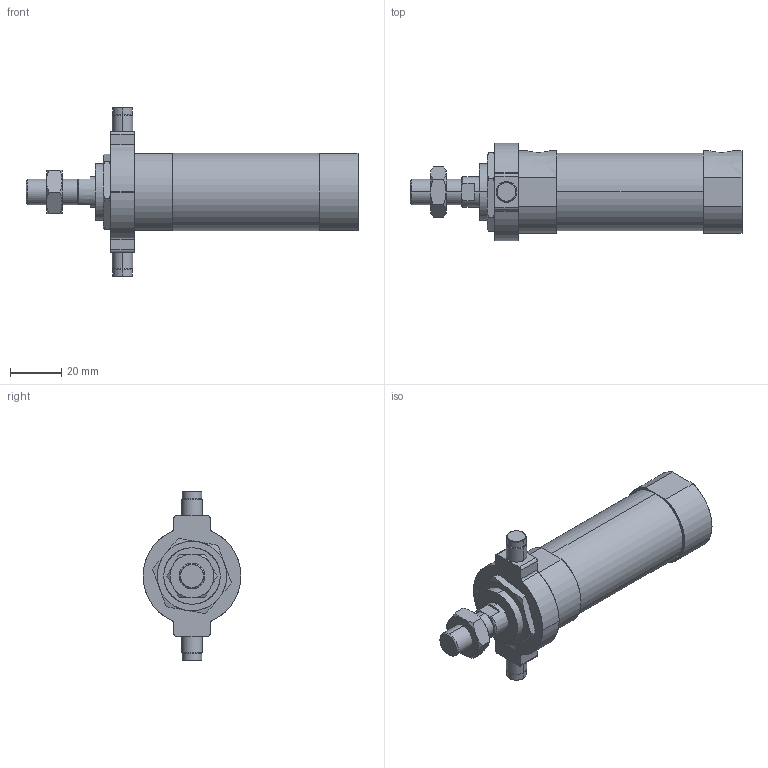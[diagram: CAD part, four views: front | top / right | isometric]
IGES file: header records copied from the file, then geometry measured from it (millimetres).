
Start section: SolidWorks IGES file using analytic representation for surfaces
Global section: file name: C:\Users\Toshiba\Desktop\JGND2-25-25-T.IGS; native system: SolidWorks 2014; preprocessor: SolidWorks 2014; author: Toshiba; date: 160804.103513; units: millimetre
Bounding box: 129 x 38 x 66 mm (x, y, z)
Surface area: 19284.8 mm2 (no closed solid volume)
Topology: 0 solids, 0 shells, 128 faces, 2096 edges, 2092 vertices
Faces by surface type: bspline 69, revolution 59
